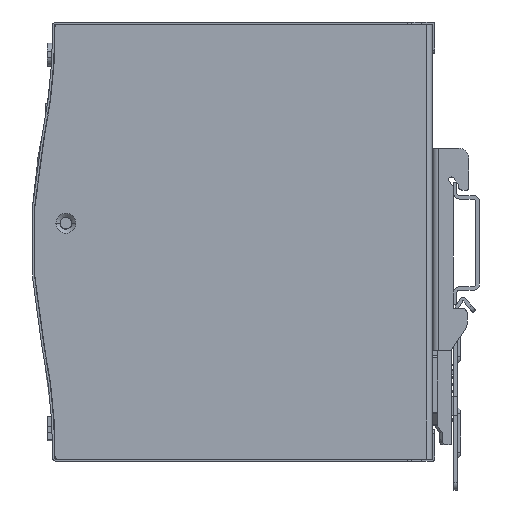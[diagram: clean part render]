
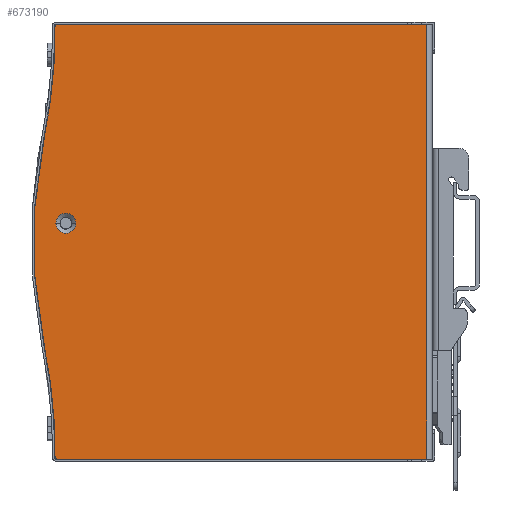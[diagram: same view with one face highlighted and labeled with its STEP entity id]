
A CAD part, front view. The second image highlights one B-rep face of the part: STEP entity #673190.
In plain terms, the highlighted planar face has unit normal (0, -1, 0).
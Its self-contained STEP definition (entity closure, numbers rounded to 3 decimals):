
#667030=CARTESIAN_POINT('',(1767.311,14.486,
8955.131));
#667040=VERTEX_POINT('',#667030);
#667090=CARTESIAN_POINT('',(1620.343,14.486,
8985.141));
#667100=DIRECTION('',(0.,-1.,0.));
#667110=DIRECTION('',(0.98,0.,
-0.2));
#667120=AXIS2_PLACEMENT_3D('',#667090,#667100,#667110);
#667130=CIRCLE('',#667120,150.);
#667140=CARTESIAN_POINT('',(1767.311,14.486,
9015.151));
#667150=VERTEX_POINT('',#667140);
#667160=EDGE_CURVE('',#667040,#667150,#667130,.T.);
#667890=CARTESIAN_POINT('',(1758.344,14.486,
8979.891));
#667900=VERTEX_POINT('',#667890);
#668060=CARTESIAN_POINT('',(1764.044,14.486,
8979.891));
#668070=VERTEX_POINT('',#668060);
#668100=CARTESIAN_POINT('',(1761.194,14.486,
8979.891));
#668110=DIRECTION('',(0.,1.,0.));
#668120=DIRECTION('',(1.,0.,0.));
#668130=AXIS2_PLACEMENT_3D('',#668100,#668110,#668120);
#668140=CIRCLE('',#668130,2.85);
#668150=EDGE_CURVE('',#668070,#667900,#668140,.T.);
#668320=CARTESIAN_POINT('',(1658.393,14.486,
9047.141));
#668330=VERTEX_POINT('',#668320);
#668360=CARTESIAN_POINT('',(1658.393,14.486,
8923.141));
#668370=DIRECTION('',(0.,0.,1.));
#668380=VECTOR('',#668370,1.);
#668390=LINE('',#668360,#668380);
#668400=CARTESIAN_POINT('',(1658.393,14.486,
8923.141));
#668410=VERTEX_POINT('',#668400);
#668420=EDGE_CURVE('',#668410,#668330,#668390,.T.);
#668670=CARTESIAN_POINT('',(1914.278,14.486,
8925.122));
#668680=DIRECTION('',(0.,1.,0.));
#668690=DIRECTION('',(-1.,0.,
-0.01));
#668700=AXIS2_PLACEMENT_3D('',#668670,#668680,#668690);
#668710=CIRCLE('',#668700,150.);
#668720=CARTESIAN_POINT('',(1764.285,14.486,
8923.646));
#668730=VERTEX_POINT('',#668720);
#668740=EDGE_CURVE('',#668730,#667040,#668710,.T.);
#670980=CARTESIAN_POINT('',(1662.86,14.486,
8923.141));
#670990=DIRECTION('',(-1.,0.,0.));
#671000=VECTOR('',#670990,1.);
#671010=LINE('',#670980,#671000);
#671020=CARTESIAN_POINT('',(1763.785,14.486,
8923.141));
#671030=VERTEX_POINT('',#671020);
#671040=EDGE_CURVE('',#671030,#668410,#671010,.T.);
#672720=CARTESIAN_POINT('',(1768.013,14.486,
8997.141));
#672730=DIRECTION('',(0.,-1.,0.));
#672740=DIRECTION('',(1.,0.,0.));
#672750=AXIS2_PLACEMENT_3D('',#672720,#672730,#672740);
#672760=PLANE('',#672750);
#672770=EDGE_CURVE('',#667900,#668070,#668140,.T.);
#672780=ORIENTED_EDGE('',*,*,#672770,.T.);
#672790=ORIENTED_EDGE('',*,*,#668150,.T.);
#672800=EDGE_LOOP('',(#672790,#672780));
#672810=FACE_BOUND('',#672800,.T.);
#672820=ORIENTED_EDGE('',*,*,#668420,.F.);
#672830=CARTESIAN_POINT('',(1662.86,14.486,
9047.141));
#672840=DIRECTION('',(-1.,0.,0.));
#672850=VECTOR('',#672840,1.);
#672860=LINE('',#672830,#672850);
#672870=CARTESIAN_POINT('',(1763.785,14.486,
9047.141));
#672880=VERTEX_POINT('',#672870);
#672890=EDGE_CURVE('',#672880,#668330,#672860,.T.);
#672900=ORIENTED_EDGE('',*,*,#672890,.T.);
#672910=CARTESIAN_POINT('',(1763.785,14.486,
9046.641));
#672920=DIRECTION('',(0.,-1.,0.));
#672930=DIRECTION('',(0.,0.,1.));
#672940=AXIS2_PLACEMENT_3D('',#672910,#672920,#672930);
#672950=CIRCLE('',#672940,0.5);
#672960=CARTESIAN_POINT('',(1764.285,14.486,
9046.636));
#672970=VERTEX_POINT('',#672960);
#672980=EDGE_CURVE('',#672970,#672880,#672950,.T.);
#672990=ORIENTED_EDGE('',*,*,#672980,.T.);
#673000=CARTESIAN_POINT('',(1914.278,14.486,
9045.16));
#673010=DIRECTION('',(0.,1.,0.));
#673020=DIRECTION('',(-0.98,0.,
-0.2));
#673030=AXIS2_PLACEMENT_3D('',#673000,#673010,#673020);
#673040=CIRCLE('',#673030,150.);
#673050=EDGE_CURVE('',#667150,#672970,#673040,.T.);
#673060=ORIENTED_EDGE('',*,*,#673050,.T.);
#673070=ORIENTED_EDGE('',*,*,#667160,.T.);
#673080=ORIENTED_EDGE('',*,*,#668740,.T.);
#673090=CARTESIAN_POINT('',(1763.785,14.486,
8923.641));
#673100=DIRECTION('',(0.,-1.,0.));
#673110=DIRECTION('',(0.,0.,1.));
#673120=AXIS2_PLACEMENT_3D('',#673090,#673100,#673110);
#673130=CIRCLE('',#673120,0.5);
#673140=EDGE_CURVE('',#671030,#668730,#673130,.T.);
#673150=ORIENTED_EDGE('',*,*,#673140,.T.);
#673160=ORIENTED_EDGE('',*,*,#671040,.F.);
#673170=EDGE_LOOP('',(#673160,#673150,#673080,#673070,#673060,#672990,
#672900,#672820));
#673180=FACE_OUTER_BOUND('',#673170,.T.);
#673190=ADVANCED_FACE('',(#672810,#673180),#672760,.T.);
